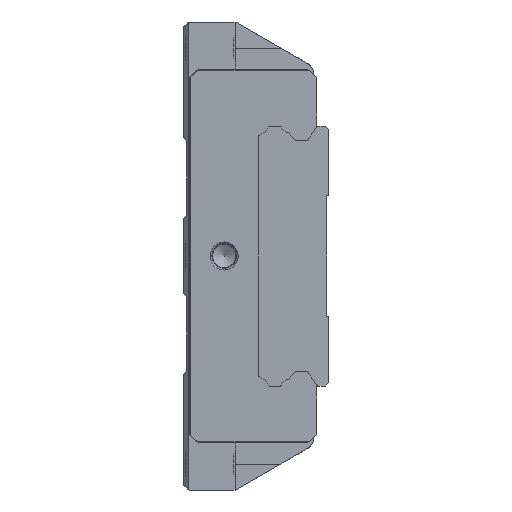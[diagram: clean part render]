
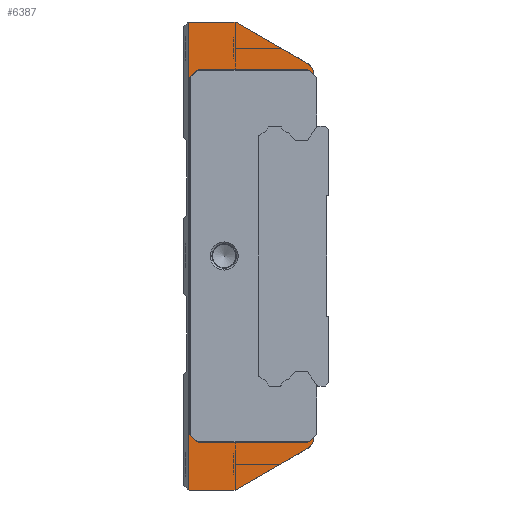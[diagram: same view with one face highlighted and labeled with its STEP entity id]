
A CAD part, left-side view. The second image highlights one B-rep face of the part: STEP entity #6387.
In plain terms, the highlighted planar face has unit normal (-1, 0, 0).
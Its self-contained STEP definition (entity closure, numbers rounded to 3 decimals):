
#189=PLANE('',#7180);
#389=LINE('',#10589,#719);
#390=LINE('',#10590,#720);
#391=LINE('',#10594,#721);
#392=LINE('',#10598,#722);
#393=LINE('',#10600,#723);
#394=LINE('',#10602,#724);
#395=LINE('',#10604,#725);
#396=LINE('',#10606,#726);
#397=LINE('',#10608,#727);
#398=LINE('',#10610,#728);
#399=LINE('',#10612,#729);
#400=LINE('',#10614,#730);
#401=LINE('',#10618,#731);
#402=LINE('',#10622,#732);
#719=VECTOR('',#8792,1000.);
#720=VECTOR('',#8793,1000.);
#721=VECTOR('',#8796,1000.);
#722=VECTOR('',#8799,1000.);
#723=VECTOR('',#8800,1000.);
#724=VECTOR('',#8801,1000.);
#725=VECTOR('',#8802,1000.);
#726=VECTOR('',#8803,1000.);
#727=VECTOR('',#8804,1000.);
#728=VECTOR('',#8805,1000.);
#729=VECTOR('',#8806,1000.);
#730=VECTOR('',#8807,1000.);
#731=VECTOR('',#8810,1000.);
#732=VECTOR('',#8813,1000.);
#1835=ORIENTED_EDGE('',*,*,#2947,.F.);
#1836=ORIENTED_EDGE('',*,*,#2870,.F.);
#1837=ORIENTED_EDGE('',*,*,#2948,.F.);
#1838=ORIENTED_EDGE('',*,*,#2949,.F.);
#1839=ORIENTED_EDGE('',*,*,#2950,.F.);
#1840=ORIENTED_EDGE('',*,*,#2951,.F.);
#1841=ORIENTED_EDGE('',*,*,#2952,.F.);
#1842=ORIENTED_EDGE('',*,*,#2953,.T.);
#1843=ORIENTED_EDGE('',*,*,#2954,.T.);
#1844=ORIENTED_EDGE('',*,*,#2955,.T.);
#1845=ORIENTED_EDGE('',*,*,#2956,.T.);
#1846=ORIENTED_EDGE('',*,*,#2957,.T.);
#1847=ORIENTED_EDGE('',*,*,#2958,.T.);
#1848=ORIENTED_EDGE('',*,*,#2959,.T.);
#1849=ORIENTED_EDGE('',*,*,#2960,.F.);
#1850=ORIENTED_EDGE('',*,*,#2961,.F.);
#1851=ORIENTED_EDGE('',*,*,#2962,.F.);
#1852=ORIENTED_EDGE('',*,*,#2963,.F.);
#1853=ORIENTED_EDGE('',*,*,#2964,.F.);
#1854=ORIENTED_EDGE('',*,*,#2926,.F.);
#2870=EDGE_CURVE('',#3604,#3605,#4190,.T.);
#2926=EDGE_CURVE('',#3644,#3645,#4197,.T.);
#2947=EDGE_CURVE('',#3605,#3644,#389,.T.);
#2948=EDGE_CURVE('',#3663,#3604,#390,.T.);
#2949=EDGE_CURVE('',#3664,#3663,#4203,.T.);
#2950=EDGE_CURVE('',#3665,#3664,#391,.T.);
#2951=EDGE_CURVE('',#3666,#3665,#4204,.T.);
#2952=EDGE_CURVE('',#3667,#3666,#392,.T.);
#2953=EDGE_CURVE('',#3667,#3668,#393,.T.);
#2954=EDGE_CURVE('',#3668,#3669,#394,.T.);
#2955=EDGE_CURVE('',#3669,#3670,#395,.T.);
#2956=EDGE_CURVE('',#3670,#3671,#396,.T.);
#2957=EDGE_CURVE('',#3671,#3672,#397,.T.);
#2958=EDGE_CURVE('',#3672,#3673,#398,.T.);
#2959=EDGE_CURVE('',#3673,#3674,#399,.T.);
#2960=EDGE_CURVE('',#3675,#3674,#400,.T.);
#2961=EDGE_CURVE('',#3676,#3675,#4205,.T.);
#2962=EDGE_CURVE('',#3677,#3676,#401,.T.);
#2963=EDGE_CURVE('',#3678,#3677,#4206,.T.);
#2964=EDGE_CURVE('',#3645,#3678,#402,.T.);
#3604=VERTEX_POINT('',#10435);
#3605=VERTEX_POINT('',#10437);
#3644=VERTEX_POINT('',#10547);
#3645=VERTEX_POINT('',#10549);
#3663=VERTEX_POINT('',#10591);
#3664=VERTEX_POINT('',#10593);
#3665=VERTEX_POINT('',#10595);
#3666=VERTEX_POINT('',#10597);
#3667=VERTEX_POINT('',#10599);
#3668=VERTEX_POINT('',#10601);
#3669=VERTEX_POINT('',#10603);
#3670=VERTEX_POINT('',#10605);
#3671=VERTEX_POINT('',#10607);
#3672=VERTEX_POINT('',#10609);
#3673=VERTEX_POINT('',#10611);
#3674=VERTEX_POINT('',#10613);
#3675=VERTEX_POINT('',#10615);
#3676=VERTEX_POINT('',#10617);
#3677=VERTEX_POINT('',#10619);
#3678=VERTEX_POINT('',#10621);
#4190=CIRCLE('',#7139,1.);
#4197=CIRCLE('',#7173,1.);
#4203=CIRCLE('',#7181,1.);
#4204=CIRCLE('',#7182,5.);
#4205=CIRCLE('',#7183,5.);
#4206=CIRCLE('',#7184,1.);
#4935=EDGE_LOOP('',(#1835,#1836,#1837,#1838,#1839,#1840,#1841,#1842,#1843,
#1844,#1845,#1846,#1847,#1848,#1849,#1850,#1851,#1852,#1853,#1854));
#5753=FACE_BOUND('',#4935,.T.);
#6387=ADVANCED_FACE('',(#5753),#189,.F.);
#7139=AXIS2_PLACEMENT_3D('',#10436,#8655,#8656);
#7173=AXIS2_PLACEMENT_3D('',#10548,#8761,#8762);
#7180=AXIS2_PLACEMENT_3D('',#10588,#8790,#8791);
#7181=AXIS2_PLACEMENT_3D('',#10592,#8794,#8795);
#7182=AXIS2_PLACEMENT_3D('',#10596,#8797,#8798);
#7183=AXIS2_PLACEMENT_3D('',#10616,#8808,#8809);
#7184=AXIS2_PLACEMENT_3D('',#10620,#8811,#8812);
#8655=DIRECTION('',(1.,0.,0.));
#8656=DIRECTION('',(0.,0.,-1.));
#8761=DIRECTION('',(1.,0.,0.));
#8762=DIRECTION('',(0.,0.,-1.));
#8790=DIRECTION('',(1.,0.,0.));
#8791=DIRECTION('',(0.,0.,-1.));
#8792=DIRECTION('',(0.,0.,1.));
#8793=DIRECTION('',(0.,1.,0.));
#8794=DIRECTION('',(1.,0.,0.));
#8795=DIRECTION('',(0.,0.,-1.));
#8796=DIRECTION('',(0.,0.866,-0.5));
#8797=DIRECTION('',(1.,0.,0.));
#8798=DIRECTION('',(0.,0.,-1.));
#8799=DIRECTION('',(0.,0.,-1.));
#8800=DIRECTION('',(0.,0.707,-0.707));
#8801=DIRECTION('',(0.,1.,0.));
#8802=DIRECTION('',(0.,0.707,0.707));
#8803=DIRECTION('',(0.,0.,1.));
#8804=DIRECTION('',(0.,-0.707,0.707));
#8805=DIRECTION('',(0.,-1.,0.));
#8806=DIRECTION('',(0.,-0.707,-0.707));
#8807=DIRECTION('',(0.,0.,-1.));
#8808=DIRECTION('',(1.,0.,0.));
#8809=DIRECTION('',(0.,0.,-1.));
#8810=DIRECTION('',(0.,-0.866,-0.5));
#8811=DIRECTION('',(1.,0.,0.));
#8812=DIRECTION('',(0.,0.,-1.));
#8813=DIRECTION('',(0.,-1.,0.));
#10435=CARTESIAN_POINT('',(-53.5,44.086,-81.));
#10436=CARTESIAN_POINT('',(-53.5,44.086,-80.));
#10437=CARTESIAN_POINT('',(-53.5,44.45,-80.931));
#10547=CARTESIAN_POINT('',(-53.5,44.45,80.931));
#10548=CARTESIAN_POINT('',(-53.5,44.086,80.));
#10549=CARTESIAN_POINT('',(-53.5,44.086,81.));
#10588=CARTESIAN_POINT('',(-53.5,28.269,80.));
#10589=CARTESIAN_POINT('',(-53.5,44.45,80.));
#10590=CARTESIAN_POINT('',(-53.5,28.269,-81.));
#10591=CARTESIAN_POINT('',(-53.5,28.269,-81.));
#10592=CARTESIAN_POINT('',(-53.5,28.269,-80.));
#10593=CARTESIAN_POINT('',(-53.5,27.769,-80.866));
#10594=CARTESIAN_POINT('',(-53.5,3.4,-66.797));
#10595=CARTESIAN_POINT('',(-53.5,3.4,-66.797));
#10596=CARTESIAN_POINT('',(-53.5,5.9,-62.467));
#10597=CARTESIAN_POINT('',(-53.5,1.,-63.462));
#10598=CARTESIAN_POINT('',(-53.5,1.,-62.7));
#10599=CARTESIAN_POINT('',(-53.5,1.,-62.7));
#10600=CARTESIAN_POINT('',(-53.5,0.,-61.7));
#10601=CARTESIAN_POINT('',(-53.5,3.,-64.7));
#10602=CARTESIAN_POINT('',(-53.5,3.,-64.7));
#10603=CARTESIAN_POINT('',(-53.5,41.,-64.7));
#10604=CARTESIAN_POINT('',(-53.5,41.,-64.7));
#10605=CARTESIAN_POINT('',(-53.5,44.,-61.7));
#10606=CARTESIAN_POINT('',(-53.5,44.,-61.7));
#10607=CARTESIAN_POINT('',(-53.5,44.,61.7));
#10608=CARTESIAN_POINT('',(-53.5,44.,61.7));
#10609=CARTESIAN_POINT('',(-53.5,41.,64.7));
#10610=CARTESIAN_POINT('',(-53.5,41.,64.7));
#10611=CARTESIAN_POINT('',(-53.5,3.,64.7));
#10612=CARTESIAN_POINT('',(-53.5,3.,64.7));
#10613=CARTESIAN_POINT('',(-53.5,1.,62.7));
#10614=CARTESIAN_POINT('',(-53.5,1.,63.462));
#10615=CARTESIAN_POINT('',(-53.5,1.,63.462));
#10616=CARTESIAN_POINT('',(-53.5,5.9,62.467));
#10617=CARTESIAN_POINT('',(-53.5,3.4,66.797));
#10618=CARTESIAN_POINT('',(-53.5,27.769,80.866));
#10619=CARTESIAN_POINT('',(-53.5,27.769,80.866));
#10620=CARTESIAN_POINT('',(-53.5,28.269,80.));
#10621=CARTESIAN_POINT('',(-53.5,28.269,81.));
#10622=CARTESIAN_POINT('',(-53.5,44.086,81.));
